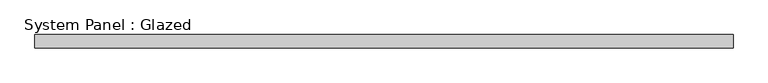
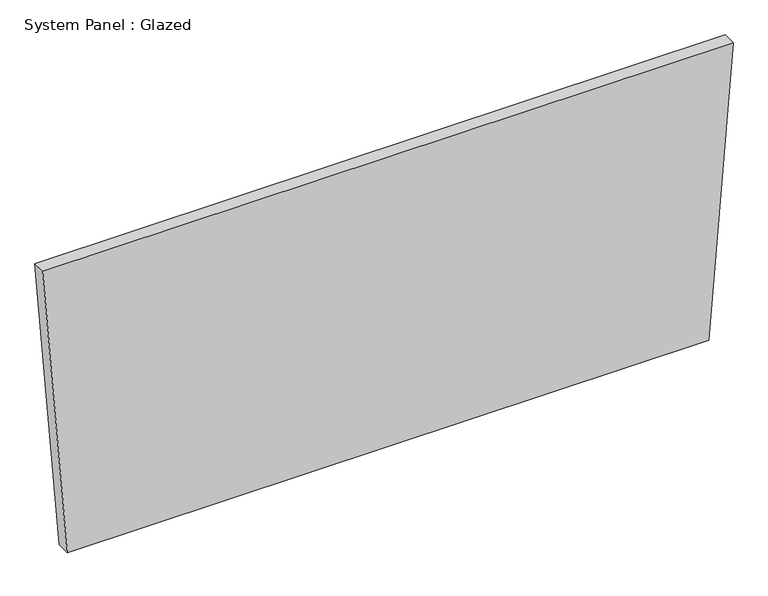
"""IFC4 building model written with IfcOpenShell, lengths in millimetres: plate geometry, System Panel : Glazed."""

from ifc_helpers import new_model, si_unit, frame, origin, place, context, project, spatial, polyline, outline, extrude, source, transform, mapped, element, save


def system_panel_glazed_45c6f521(model_context):
    return source(origin(), model_context, "Body", "SweptSolid", [
        extrude(outline(polyline([(0.0, -610.0304306), (0.0, 610.0304306), (582.247707, 656.7412956), (582.247707, -656.7412956), (0.0, -610.0304306)])), frame((0.0, 19.05, 0.0), z_axis=(0.0, 1.0, 0.0), x_axis=(0.0, 0.0, 1.0)), (0.0, 0.0, 1.0), 25.4),
    ])


if __name__ == "__main__":
    model = new_model("IFC4")
    model_context = context("Model", 3, world=origin())
    ifc_project = project(units=[si_unit("LENGTHUNIT", "METRE", prefix="MILLI")], contexts=[model_context])
    site = spatial("IfcSite", under=ifc_project)
    building = spatial("IfcBuilding", under=site)
    placement = place(None, origin())
    system_panel_glazed_shape = system_panel_glazed_45c6f521(model_context)
    element("IfcPlate", 1, ObjectType="System Panel : Glazed", at=placement, inside=building, context=model_context, shape_type="MappedRepresentation", body=[
        mapped(system_panel_glazed_shape, transform((0.0, 0.0, 0.0), x_axis=(1.0, 0.0, 0.0), y_axis=(0.0, 1.0, 0.0), z_axis=(0.0, 0.0, 1.0))),
    ])
    save(model, "model.ifc")
